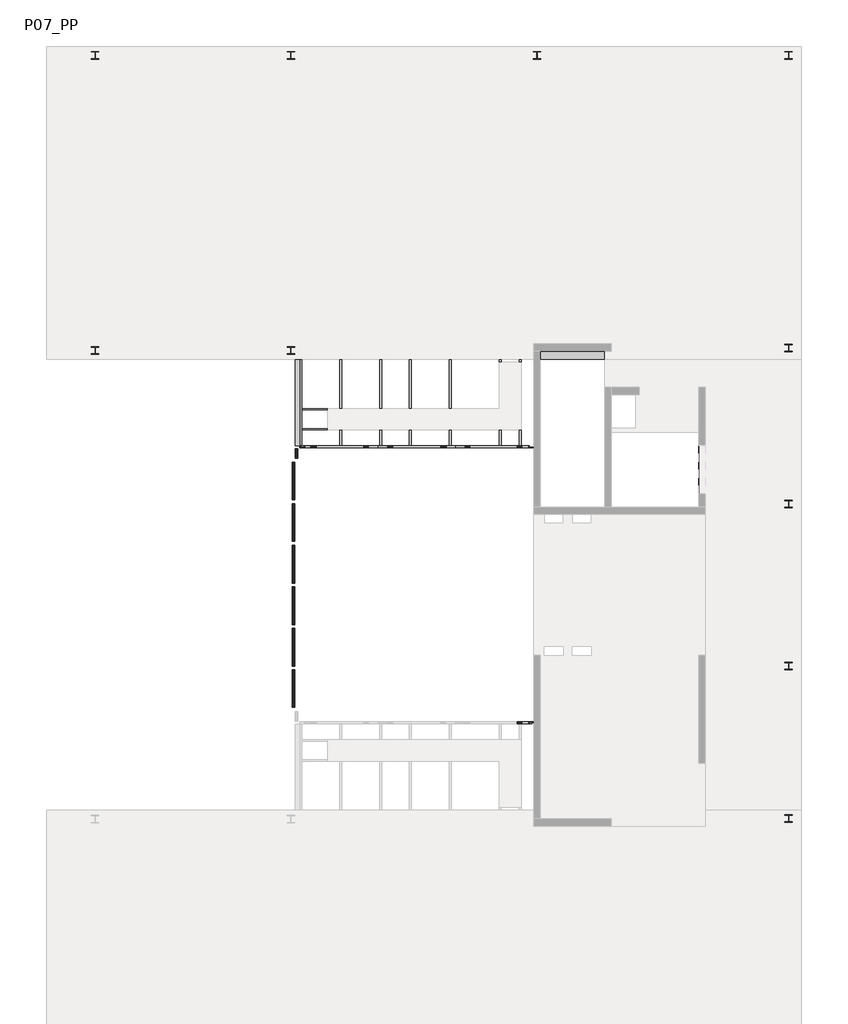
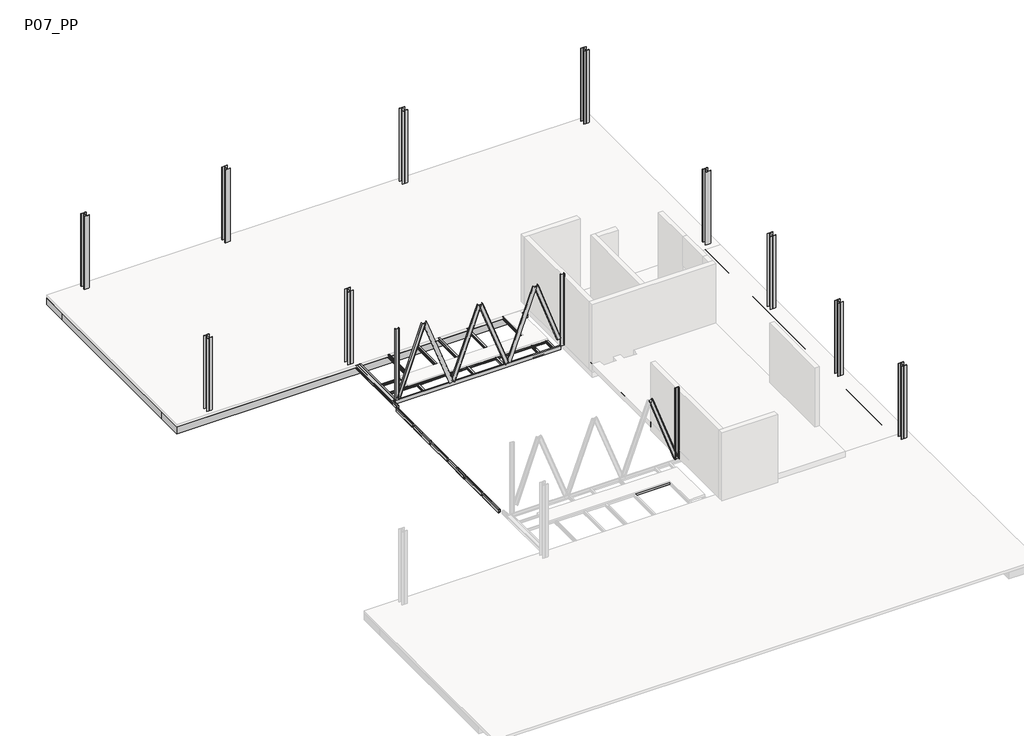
# One storey, part 2 of 2: 62 beams, 13 columns.
"""IFC4 building model written with IfcOpenShell, lengths in millimetres."""

from ifc_helpers import new_model, si_unit, frame, origin, place, context, project, spatial, polyline, outline, extrude, faceted_brep, transform, mapped, element, save
from components import heb_180x180_0f2e0399, m_hss_rectangular_hss_200x100_5f17627f, m_hss_rectangular_hss_200x100_02db10bf, m_hss_rectangular_hss_200x100_1788cd85, m_hss_rectangular_hss_200x100_fa2a969a, m_hss_rectangular_hss_200x100_f713b872, m_hss_rectangular_hss_200x100_5a28828e, ub_universal_beams_ipe_160x82_a4b44378, ub_universal_beams_ipe_160x82_3ea767f5, upn120x55_69f0bca1, upn120x55_efc8f615, upn120x55_8ca40f5d, upn120x55_f8c29ef0, upn120x55_6f2391d9, upn120x55_f3862d68, upn120x55_dbb17e30, upn200x75_24fb99ba, upn200x75_cb59e596, upn200x75_a606ac6d, upn200x75_97ea6d6a, upn200x75_3677b2e3, upn200x75_89d3c056, uc_universal_columns_column_uc300x300x97_0dd95e36, upn_200x75_eb6b664d

model = new_model("IFC4")

# Units and contexts
model_context = context("Model", 3, world=origin())
ifc_project = project(units=[si_unit("LENGTHUNIT", "METRE", prefix="MILLI")], contexts=[model_context])

# Site, building, storey
site = spatial("IfcSite", under=ifc_project)
building = spatial("IfcBuilding", under=site)
storey = spatial("IfcBuildingStorey", under=building, Name="P07_PP", Elevation=33660.0)

# Beams
placement = place(None, origin())
heb_180x180_shape = heb_180x180_0f2e0399(model_context)
element("IfcBeam", 1, ObjectType="M_HP-Bearing Pile : HEB 180x180", at=placement, inside=storey, context=model_context, shape_type="MappedRepresentation", body=[
    mapped(heb_180x180_shape, transform((-23130.357866, 12156.8787841, 33570.0), x_axis=(0.0, 1.0, 0.0), y_axis=(-1.0, 0.0, 0.0), z_axis=(0.0, 0.0, 1.0))),
])
element("IfcBeam", 2, ObjectType="M_Concrete-Rectangular Beam : 1500 x 550mm", at=placement, inside=storey, context=model_context, shape_type="Brep", body=[
    faceted_brep([(-13390.3216429, 13539.4134441, 33660.0), (-10790.2146087, 13539.4134441, 33660.0), (-10790.2146087, 13864.8960677, 33660.0), (-13390.3216429, 13864.8960677, 33660.0), (-2913.6343046, 15039.4134441, 33110.0), (-4553.6343046, 15039.4134441, 33110.0), (-5816.2708415, 15039.4134441, 33110.0), (-6216.2708415, 15039.4134441, 33110.0), (-7482.9375051, 15039.4134441, 33110.0), (-7882.9375051, 15039.4134441, 33110.0), (-9149.6041702, 15039.4134441, 33110.0), (-9549.6041702, 15039.4134441, 33110.0), (-10816.2708336, 15039.4134441, 33110.0), (-11216.2708336, 15039.4134441, 33110.0), (-12482.9374977, 15039.4134441, 33110.0), (-12882.9374977, 15039.4134441, 33110.0), (-14149.604161, 15039.4134441, 33110.0), (-14549.604161, 15039.4134441, 33110.0), (-15816.2708252, 15039.4134441, 33110.0), (-16216.2708252, 15039.4134441, 33110.0), (-17482.9374898, 15039.4134441, 33110.0), (-17882.9374898, 15039.4134441, 33110.0), (-19149.6041539, 15039.4134441, 33110.0), (-19549.6041539, 15039.4134441, 33110.0), (-20816.2708168, 15039.4134441, 33110.0), (-21216.2708168, 15039.4134441, 33110.0), (-22482.9374805, 15039.4134441, 33110.0), (-22882.9374805, 15039.4134441, 33110.0), (-24149.6041453, 15039.4134441, 33110.0), (-24549.6041453, 15039.4134441, 33110.0), (-25816.2708089, 15039.4134441, 33110.0), (-26216.2708089, 15039.4134441, 33110.0), (-27482.9374731, 15039.4134441, 33110.0), (-27882.9374731, 15039.4134441, 33110.0), (-29149.6041367, 15039.4134441, 33110.0), (-29549.6041367, 15039.4134441, 33110.0), (-30816.2708024, 15039.4134441, 33110.0), (-31216.2708024, 15039.4134441, 33110.0), (-32490.2931093, 15039.4134441, 33110.0), (-33190.2931093, 15039.4134441, 33110.0), (-33190.2931093, 15039.4134441, 33510.0), (-32490.2931093, 15039.4134441, 33510.0), (-31216.2708024, 15039.4134441, 33510.0), (-30816.2708024, 15039.4134441, 33510.0), (-29549.6041367, 15039.4134441, 33510.0), (-29149.6041367, 15039.4134441, 33510.0), (-27882.9374731, 15039.4134441, 33510.0), (-27482.9374731, 15039.4134441, 33510.0), (-26216.2708089, 15039.4134441, 33510.0), (-25816.2708089, 15039.4134441, 33510.0), (-24549.6041453, 15039.4134441, 33510.0), (-24149.6041453, 15039.4134441, 33510.0), (-22882.9374805, 15039.4134441, 33510.0), (-22482.9374805, 15039.4134441, 33510.0), (-21216.2708168, 15039.4134441, 33510.0), (-20816.2708168, 15039.4134441, 33510.0), (-19549.6041539, 15039.4134441, 33510.0), (-19149.6041539, 15039.4134441, 33510.0), (-17882.9374898, 15039.4134441, 33510.0), (-17482.9374898, 15039.4134441, 33510.0), (-16216.2708252, 15039.4134441, 33510.0), (-15816.2708252, 15039.4134441, 33510.0), (-14549.604161, 15039.4134441, 33510.0), (-14149.604161, 15039.4134441, 33510.0), (-12882.9374977, 15039.4134441, 33510.0), (-12482.9374977, 15039.4134441, 33510.0), (-11216.2708336, 15039.4134441, 33510.0), (-10816.2708336, 15039.4134441, 33510.0), (-9549.6041702, 15039.4134441, 33510.0), (-9149.6041702, 15039.4134441, 33510.0), (-7882.9375051, 15039.4134441, 33510.0), (-7482.9375051, 15039.4134441, 33510.0), (-6216.2708415, 15039.4134441, 33510.0), (-5816.2708415, 15039.4134441, 33510.0), (-4553.6343046, 15039.4134441, 33510.0), (-2913.6343046, 15039.4134441, 33510.0), (-33190.2931093, 13539.4134441, 33110.0), (-2913.6343046, 13539.4134441, 33110.0), (-13390.3216429, 13539.4134441, 33110.0), (-13390.3216429, 13864.8960687, 33110.0), (-10540.3248355, 13864.8960687, 33110.0), (-10540.3248355, 14164.8960687, 33110.0), (-13640.3216429, 14164.8960687, 33110.0), (-13640.3216429, 13539.4134441, 33110.0), (-3265.7676427, 13739.8953429, 33110.0), (-3265.767646, 14239.8953429, 33110.0), (-3765.767646, 14239.8953395, 33110.0), (-3765.7676427, 13739.8953395, 33110.0), (-23240.3176131, 13739.8951432, 33110.0), (-23240.3176172, 14239.8951432, 33110.0), (-23740.3176172, 14239.8951391, 33110.0), (-23740.3176131, 13739.8951391, 33110.0), (-30890.3590226, 13739.8951366, 33110.0), (-30890.3590227, 14239.8951366, 33110.0), (-31390.3590227, 14239.8951365, 33110.0), (-31390.3590226, 13739.8951365, 33110.0), (-13640.3216429, 13539.4134441, 33359.9777344), (-13390.3216429, 13539.4134441, 33359.9777344), (-2913.6343046, 13539.4134441, 33360.0), (-2913.6343046, 13539.4134441, 33510.0), (-10790.2146087, 13539.4134441, 33510.0), (-13390.3216429, 13539.4134441, 33510.0), (-33190.2931093, 13539.4134441, 33510.0), (-3265.7676427, 13739.8953429, 33360.0), (-3265.767646, 14239.8953429, 33360.0), (-3765.7676427, 13739.8953395, 33360.0), (-3765.767646, 14239.8953395, 33360.0), (-23240.3176131, 13739.8951432, 33360.0), (-23240.3176172, 14239.8951432, 33360.0), (-23740.3176131, 13739.8951391, 33360.0), (-23740.3176172, 14239.8951391, 33360.0), (-30890.3590226, 13739.8951366, 33360.0), (-30890.3590227, 14239.8951366, 33360.0), (-31390.3590226, 13739.8951365, 33360.0), (-31390.3590227, 14239.8951365, 33360.0), (-10540.3248355, 14164.8960687, 33359.9777344), (-13640.3216429, 14164.8960687, 33359.9777344), (-10540.3248355, 13864.8960687, 33359.9777344), (-13390.3216429, 13864.8960687, 33359.9777344), (-13640.3216429, 13864.8960687, 33359.9777344), (-10790.2146087, 13864.8960677, 33510.0), (-13390.3216429, 13864.8960677, 33510.0)], [[[0, 1, 2, 3]], [[4, 5, 6, 7, 8, 9, 10, 11, 12, 13, 14, 15, 16, 17, 18, 19, 20, 21, 22, 23, 24, 25, 26, 27, 28, 29, 30, 31, 32, 33, 34, 35, 36, 37, 38, 39, 40, 41, 42, 43, 44, 45, 46, 47, 48, 49, 50, 51, 52, 53, 54, 55, 56, 57, 58, 59, 60, 61, 62, 63, 64, 65, 66, 67, 68, 69, 70, 71, 72, 73, 74, 75]], [[76, 39, 38, 37, 36, 35, 34, 33, 32, 31, 30, 29, 28, 27, 26, 25, 24, 23, 22, 21, 20, 19, 18, 17, 16, 15, 14, 13, 12, 11, 10, 9, 8, 7, 6, 5, 4, 77, 78, 79, 80, 81, 82, 83], [84, 85, 86, 87], [88, 89, 90, 91], [92, 93, 94, 95]], [[76, 83, 96, 97, 78, 77, 98, 99, 100, 1, 0, 101, 102]], [[39, 76, 102, 40]], [[77, 4, 75, 99, 98]], [[103, 104, 85, 84]], [[105, 103, 84, 87]], [[106, 105, 87, 86]], [[104, 106, 86, 85]], [[104, 103, 105, 106]], [[107, 108, 89, 88]], [[109, 107, 88, 91]], [[110, 109, 91, 90]], [[108, 110, 90, 89]], [[108, 107, 109, 110]], [[111, 112, 93, 92]], [[113, 111, 92, 95]], [[114, 113, 95, 94]], [[112, 114, 94, 93]], [[112, 111, 113, 114]], [[115, 116, 82, 81]], [[117, 80, 79, 118]], [[116, 115, 117, 118, 97, 96, 119]], [[117, 115, 81, 80]], [[82, 116, 119, 96, 83]], [[97, 118, 79, 78]], [[120, 100, 99, 75, 74, 73, 72, 71, 70, 69, 68, 67, 66, 65, 64, 63, 62, 61, 60, 59, 58, 57, 56, 55, 54, 53, 52, 51, 50, 49, 48, 47, 46, 45, 44, 43, 42, 41, 40, 102, 101, 121]], [[120, 121, 3, 2]], [[121, 101, 0, 3]], [[100, 120, 2, 1]]]),
])
element("IfcBeam", 3, ObjectType="M_Concrete-Rectangular Beam : 1500 x 550mm", at=placement, inside=storey, context=model_context, shape_type="Brep", body=[
    faceted_brep([(-4553.6343046, 26089.4144807, 33110.0), (-33190.2931093, 26089.4144807, 33110.0), (-33190.2931093, 26089.4144807, 33510.0), (-4553.6343046, 26089.4144807, 33510.0), (-33190.2931093, 24589.4144807, 33110.0), (-4553.6343046, 24589.4144807, 33110.0), (-5816.2708415, 24589.4144807, 33110.0), (-6216.2708415, 24589.4144807, 33110.0), (-7482.9375051, 24589.4144807, 33110.0), (-7882.9375051, 24589.4144807, 33110.0), (-9149.6041702, 24589.4144807, 33110.0), (-9549.6041702, 24589.4144807, 33110.0), (-10816.2708336, 24589.4144807, 33110.0), (-11216.2708336, 24589.4144807, 33110.0), (-12482.9374977, 24589.4144807, 33110.0), (-12882.9374977, 24589.4144807, 33110.0), (-14149.604161, 24589.4144807, 33110.0), (-14549.604161, 24589.4144807, 33110.0), (-15816.2708252, 24589.4144807, 33110.0), (-16216.2708252, 24589.4144807, 33110.0), (-17482.9374898, 24589.4144807, 33110.0), (-17882.9374898, 24589.4144807, 33110.0), (-19149.6041539, 24589.4144807, 33110.0), (-19549.6041539, 24589.4144807, 33110.0), (-20816.2708168, 24589.4144807, 33110.0), (-21216.2708168, 24589.4144807, 33110.0), (-22482.9374805, 24589.4144807, 33110.0), (-22882.9374805, 24589.4144807, 33110.0), (-24149.6041453, 24589.4144807, 33110.0), (-24549.6041453, 24589.4144807, 33110.0), (-25816.2708089, 24589.4144807, 33110.0), (-26216.2708089, 24589.4144807, 33110.0), (-27482.9374731, 24589.4144807, 33110.0), (-27882.9374731, 24589.4144807, 33110.0), (-29149.6041367, 24589.4144807, 33110.0), (-29549.6041367, 24589.4144807, 33110.0), (-30816.2708024, 24589.4144807, 33110.0), (-31216.2708024, 24589.4144807, 33110.0), (-32490.2931093, 24589.4144807, 33110.0), (-13265.3183805, 25389.9726282, 33110.0), (-13265.3183824, 25889.9726282, 33110.0), (-13765.3183824, 25889.9726263, 33110.0), (-13765.3183805, 25389.9726263, 33110.0), (-23240.3171036, 25389.9726299, 33110.0), (-23240.3171037, 25889.9726299, 33110.0), (-23740.3171037, 25889.9726297, 33110.0), (-23740.3171036, 25389.9726297, 33110.0), (-30890.3592176, 25389.9726315, 33110.0), (-30890.3592137, 25889.9726315, 33110.0), (-31390.3592137, 25889.9726354, 33110.0), (-31390.3592176, 25389.9726354, 33110.0), (-4553.6343046, 24589.4144807, 33510.0), (-5816.2708415, 24589.4144807, 33510.0), (-6216.2708415, 24589.4144807, 33510.0), (-7482.9375051, 24589.4144807, 33510.0), (-7882.9375051, 24589.4144807, 33510.0), (-9149.6041702, 24589.4144807, 33510.0), (-9549.6041702, 24589.4144807, 33510.0), (-10816.2708336, 24589.4144807, 33510.0), (-11216.2708336, 24589.4144807, 33510.0), (-12482.9374977, 24589.4144807, 33510.0), (-12882.9374977, 24589.4144807, 33510.0), (-14149.604161, 24589.4144807, 33510.0), (-14549.604161, 24589.4144807, 33510.0), (-15816.2708252, 24589.4144807, 33510.0), (-16216.2708252, 24589.4144807, 33510.0), (-17482.9374898, 24589.4144807, 33510.0), (-17882.9374898, 24589.4144807, 33510.0), (-19149.6041539, 24589.4144807, 33510.0), (-19549.6041539, 24589.4144807, 33510.0), (-20816.2708168, 24589.4144807, 33510.0), (-21216.2708168, 24589.4144807, 33510.0), (-22482.9374805, 24589.4144807, 33510.0), (-22882.9374805, 24589.4144807, 33510.0), (-24149.6041453, 24589.4144807, 33510.0), (-24549.6041453, 24589.4144807, 33510.0), (-25816.2708089, 24589.4144807, 33510.0), (-26216.2708089, 24589.4144807, 33510.0), (-27482.9374731, 24589.4144807, 33510.0), (-27882.9374731, 24589.4144807, 33510.0), (-29149.6041367, 24589.4144807, 33510.0), (-29549.6041367, 24589.4144807, 33510.0), (-30816.2708024, 24589.4144807, 33510.0), (-31216.2708024, 24589.4144807, 33510.0), (-32490.2931093, 24589.4144807, 33510.0), (-33190.2931093, 24589.4144807, 33510.0), (-13265.3183805, 25389.9726282, 33360.0), (-13265.3183824, 25889.9726282, 33360.0), (-13765.3183805, 25389.9726263, 33360.0), (-13765.3183824, 25889.9726263, 33360.0), (-23240.3171036, 25389.9726299, 33360.0), (-23240.3171037, 25889.9726299, 33360.0), (-23740.3171036, 25389.9726297, 33360.0), (-23740.3171037, 25889.9726297, 33360.0), (-30890.3592176, 25389.9726315, 33360.0), (-30890.3592137, 25889.9726315, 33360.0), (-31390.3592176, 25389.9726354, 33360.0), (-31390.3592137, 25889.9726354, 33360.0)], [[[0, 1, 2, 3]], [[4, 1, 0, 5, 6, 7, 8, 9, 10, 11, 12, 13, 14, 15, 16, 17, 18, 19, 20, 21, 22, 23, 24, 25, 26, 27, 28, 29, 30, 31, 32, 33, 34, 35, 36, 37, 38], [39, 40, 41, 42], [43, 44, 45, 46], [47, 48, 49, 50]], [[4, 38, 37, 36, 35, 34, 33, 32, 31, 30, 29, 28, 27, 26, 25, 24, 23, 22, 21, 20, 19, 18, 17, 16, 15, 14, 13, 12, 11, 10, 9, 8, 7, 6, 5, 51, 52, 53, 54, 55, 56, 57, 58, 59, 60, 61, 62, 63, 64, 65, 66, 67, 68, 69, 70, 71, 72, 73, 74, 75, 76, 77, 78, 79, 80, 81, 82, 83, 84, 85]], [[1, 4, 85, 2]], [[5, 0, 3, 51]], [[86, 87, 40, 39]], [[88, 86, 39, 42]], [[89, 88, 42, 41]], [[87, 89, 41, 40]], [[87, 86, 88, 89]], [[90, 91, 44, 43]], [[92, 90, 43, 46]], [[93, 92, 46, 45]], [[91, 93, 45, 44]], [[91, 90, 92, 93]], [[94, 95, 48, 47]], [[96, 94, 47, 50]], [[97, 96, 50, 49]], [[95, 97, 49, 48]], [[95, 94, 96, 97]], [[3, 2, 85, 84, 83, 82, 81, 80, 79, 78, 77, 76, 75, 74, 73, 72, 71, 70, 69, 68, 67, 66, 65, 64, 63, 62, 61, 60, 59, 58, 57, 56, 55, 54, 53, 52, 51]]]),
])
element("IfcBeam", 4, ObjectType="M_Concrete-Rectangular Beam : 1640 x 550mm", at=placement, inside=storey, context=model_context, shape_type="Brep", body=[
    faceted_brep([(-4553.6343046, 26089.4144807, 33110.0), (-4553.6343046, 24589.4144807, 33110.0), (-4553.6343046, 15039.4134441, 33110.0), (-4553.6343046, 15039.4134441, 33510.0), (-4553.6343046, 24589.4144807, 33510.0), (-4553.6343046, 26089.4144807, 33510.0), (-2913.6343046, 15039.4134441, 33110.0), (-2913.6343046, 26089.4144807, 33110.0), (-3265.7676524, 25389.9726341, 33110.0), (-3265.7676517, 25889.9726341, 33110.0), (-3765.7676517, 25889.9726349, 33110.0), (-3765.7676524, 25389.9726349, 33110.0), (-2913.6343046, 26089.4144807, 33510.0), (-2913.6343046, 15039.4134441, 33510.0), (-3265.7676524, 25389.9726341, 33360.0), (-3265.7676517, 25889.9726341, 33360.0), (-3765.7676524, 25389.9726349, 33360.0), (-3765.7676517, 25889.9726349, 33360.0)], [[[0, 1, 2, 3, 4, 5]], [[6, 2, 1, 0, 7], [8, 9, 10, 11]], [[6, 7, 12, 13]], [[2, 6, 13, 3]], [[7, 0, 5, 12]], [[14, 15, 9, 8]], [[16, 14, 8, 11]], [[17, 16, 11, 10]], [[15, 17, 10, 9]], [[15, 14, 16, 17]], [[5, 4, 3, 13, 12]]]),
])
element("IfcBeam", 5, ObjectType="M_Concrete-Rectangular Beam : 300 x 300mm", at=placement, inside=storey, context=model_context, shape_type="SweptSolid", body=[
    extrude(outline(polyline([(-13340.2931098, 1664.8968204), (-13640.2931098, 1664.8968204), (-13640.2931098, 7464.8960673), (-13340.2931098, 7464.8960673), (-13340.2931098, 1664.8968204)])), frame((0.0, 0.0, 33860.0), z_axis=(0.0, 0.0, 1.0), x_axis=(1.0, 0.0, 0.0)), (0.0, 0.0, 1.0), 300.0),
])
element("IfcBeam", 6, ObjectType="M_Concrete-Rectangular Beam : 300 x 300mm", at=placement, inside=storey, context=model_context, shape_type="Brep", body=[
    faceted_brep([(-6715.3241677, 13539.4134441, 33660.0), (-7015.3241677, 13539.4134441, 33660.0), (-7015.3241677, -4560.5861501, 33660.0), (-6715.3241677, -4560.5861501, 33660.0), (-7015.3241677, 13539.4134441, 33510.0), (-7015.3241677, 13539.4134441, 33360.0), (-7015.3241677, -4560.5861501, 33360.0), (-7015.3241677, -4560.5861501, 33510.0), (-6715.3241677, 13539.4134441, 33360.0), (-6715.3241677, -4560.5861501, 33360.0), (-6715.3241677, -4560.5861501, 33510.0), (-6715.3241677, 13539.4134441, 33510.0)], [[[0, 1, 2, 3]], [[2, 1, 4, 5, 6, 7]], [[5, 8, 9, 6]], [[0, 3, 10, 9, 8, 11]], [[1, 0, 11, 8, 5, 4]], [[3, 2, 7, 6, 9, 10]]]),
])
element("IfcBeam", 7, ObjectType="M_Concrete-Rectangular Beam : 400 x 550mm", at=placement, inside=storey, context=model_context, shape_type="SweptSolid", body=[
    extrude(outline(polyline([(-30816.2708024, 15039.4134441), (-31216.2708024, 15039.4134441), (-31216.2708024, 24589.4144807), (-30816.2708024, 24589.4144807), (-30816.2708024, 15039.4134441)])), frame((0.0, 0.0, 33110.0), z_axis=(0.0, 0.0, 1.0), x_axis=(1.0, 0.0, 0.0)), (0.0, 0.0, 1.0), 400.0),
])
element("IfcBeam", 8, ObjectType="M_Concrete-Rectangular Beam : 400 x 550mm", at=placement, inside=storey, context=model_context, shape_type="SweptSolid", body=[
    extrude(outline(polyline([(-29149.6041367, 15039.4134441), (-29549.6041367, 15039.4134441), (-29549.6041367, 24589.4144807), (-29149.6041367, 24589.4144807), (-29149.6041367, 15039.4134441)])), frame((0.0, 0.0, 33110.0), z_axis=(0.0, 0.0, 1.0), x_axis=(1.0, 0.0, 0.0)), (0.0, 0.0, 1.0), 400.0),
])
element("IfcBeam", 9, ObjectType="M_Concrete-Rectangular Beam : 400 x 550mm", at=placement, inside=storey, context=model_context, shape_type="SweptSolid", body=[
    extrude(outline(polyline([(-27482.9374731, 15039.4134441), (-27882.9374731, 15039.4134441), (-27882.9374731, 24589.4144807), (-27482.9374731, 24589.4144807), (-27482.9374731, 15039.4134441)])), frame((0.0, 0.0, 33110.0), z_axis=(0.0, 0.0, 1.0), x_axis=(1.0, 0.0, 0.0)), (0.0, 0.0, 1.0), 400.0),
])
element("IfcBeam", 10, ObjectType="M_Concrete-Rectangular Beam : 400 x 550mm", at=placement, inside=storey, context=model_context, shape_type="SweptSolid", body=[
    extrude(outline(polyline([(-25816.2708089, 15039.4134441), (-26216.2708089, 15039.4134441), (-26216.2708089, 24589.4144807), (-25816.2708089, 24589.4144807), (-25816.2708089, 15039.4134441)])), frame((0.0, 0.0, 33110.0), z_axis=(0.0, 0.0, 1.0), x_axis=(1.0, 0.0, 0.0)), (0.0, 0.0, 1.0), 400.0),
])
element("IfcBeam", 11, ObjectType="M_Concrete-Rectangular Beam : 400 x 550mm", at=placement, inside=storey, context=model_context, shape_type="SweptSolid", body=[
    extrude(outline(polyline([(-24149.6041453, 15039.4134441), (-24549.6041453, 15039.4134441), (-24549.6041453, 24589.4144807), (-24149.6041453, 24589.4144807), (-24149.6041453, 15039.4134441)])), frame((0.0, 0.0, 33110.0), z_axis=(0.0, 0.0, 1.0), x_axis=(1.0, 0.0, 0.0)), (0.0, 0.0, 1.0), 400.0),
])
element("IfcBeam", 12, ObjectType="M_Concrete-Rectangular Beam : 400 x 550mm", at=placement, inside=storey, context=model_context, shape_type="SweptSolid", body=[
    extrude(outline(polyline([(-22482.9374805, 15039.4134441), (-22882.9374805, 15039.4134441), (-22882.9374805, 24589.4144807), (-22482.9374805, 24589.4144807), (-22482.9374805, 15039.4134441)])), frame((0.0, 0.0, 33110.0), z_axis=(0.0, 0.0, 1.0), x_axis=(1.0, 0.0, 0.0)), (0.0, 0.0, 1.0), 400.0),
])
element("IfcBeam", 13, ObjectType="M_Concrete-Rectangular Beam : 400 x 550mm", at=placement, inside=storey, context=model_context, shape_type="SweptSolid", body=[
    extrude(outline(polyline([(-20816.2708168, 15039.4134441), (-21216.2708168, 15039.4134441), (-21216.2708168, 24589.4144807), (-20816.2708168, 24589.4144807), (-20816.2708168, 15039.4134441)])), frame((0.0, 0.0, 33110.0), z_axis=(0.0, 0.0, 1.0), x_axis=(1.0, 0.0, 0.0)), (0.0, 0.0, 1.0), 400.0),
])
element("IfcBeam", 14, ObjectType="M_Concrete-Rectangular Beam : 400 x 550mm", at=placement, inside=storey, context=model_context, shape_type="SweptSolid", body=[
    extrude(outline(polyline([(-19149.6041539, 15039.4134441), (-19549.6041539, 15039.4134441), (-19549.6041539, 24589.4144807), (-19149.6041539, 24589.4144807), (-19149.6041539, 15039.4134441)])), frame((0.0, 0.0, 33110.0), z_axis=(0.0, 0.0, 1.0), x_axis=(1.0, 0.0, 0.0)), (0.0, 0.0, 1.0), 400.0),
])
element("IfcBeam", 15, ObjectType="M_Concrete-Rectangular Beam : 400 x 550mm", at=placement, inside=storey, context=model_context, shape_type="SweptSolid", body=[
    extrude(outline(polyline([(-17482.9374898, 15039.4134441), (-17882.9374898, 15039.4134441), (-17882.9374898, 24589.4144807), (-17482.9374898, 24589.4144807), (-17482.9374898, 15039.4134441)])), frame((0.0, 0.0, 33110.0), z_axis=(0.0, 0.0, 1.0), x_axis=(1.0, 0.0, 0.0)), (0.0, 0.0, 1.0), 400.0),
])
element("IfcBeam", 16, ObjectType="M_Concrete-Rectangular Beam : 400 x 550mm", at=placement, inside=storey, context=model_context, shape_type="SweptSolid", body=[
    extrude(outline(polyline([(-15816.2708252, 15039.4134441), (-16216.2708252, 15039.4134441), (-16216.2708252, 24589.4144807), (-15816.2708252, 24589.4144807), (-15816.2708252, 15039.4134441)])), frame((0.0, 0.0, 33110.0), z_axis=(0.0, 0.0, 1.0), x_axis=(1.0, 0.0, 0.0)), (0.0, 0.0, 1.0), 400.0),
])
element("IfcBeam", 17, ObjectType="M_Concrete-Rectangular Beam : 400 x 550mm", at=placement, inside=storey, context=model_context, shape_type="SweptSolid", body=[
    extrude(outline(polyline([(-14149.604161, 15039.4134441), (-14549.604161, 15039.4134441), (-14549.604161, 24589.4144807), (-14149.604161, 24589.4144807), (-14149.604161, 15039.4134441)])), frame((0.0, 0.0, 33110.0), z_axis=(0.0, 0.0, 1.0), x_axis=(1.0, 0.0, 0.0)), (0.0, 0.0, 1.0), 400.0),
])
element("IfcBeam", 18, ObjectType="M_Concrete-Rectangular Beam : 400 x 550mm", at=placement, inside=storey, context=model_context, shape_type="SweptSolid", body=[
    extrude(outline(polyline([(-12482.9374977, 15039.4134441), (-12882.9374977, 15039.4134441), (-12882.9374977, 24589.4144807), (-12482.9374977, 24589.4144807), (-12482.9374977, 15039.4134441)])), frame((0.0, 0.0, 33110.0), z_axis=(0.0, 0.0, 1.0), x_axis=(1.0, 0.0, 0.0)), (0.0, 0.0, 1.0), 400.0),
])
element("IfcBeam", 19, ObjectType="M_Concrete-Rectangular Beam : 400 x 550mm", at=placement, inside=storey, context=model_context, shape_type="SweptSolid", body=[
    extrude(outline(polyline([(-10816.2708336, 15039.4134441), (-11216.2708336, 15039.4134441), (-11216.2708336, 24589.4144807), (-10816.2708336, 24589.4144807), (-10816.2708336, 15039.4134441)])), frame((0.0, 0.0, 33110.0), z_axis=(0.0, 0.0, 1.0), x_axis=(1.0, 0.0, 0.0)), (0.0, 0.0, 1.0), 400.0),
])
element("IfcBeam", 20, ObjectType="M_Concrete-Rectangular Beam : 400 x 550mm", at=placement, inside=storey, context=model_context, shape_type="SweptSolid", body=[
    extrude(outline(polyline([(-9149.6041702, 15039.4134441), (-9549.6041702, 15039.4134441), (-9549.6041702, 24589.4144807), (-9149.6041702, 24589.4144807), (-9149.6041702, 15039.4134441)])), frame((0.0, 0.0, 33110.0), z_axis=(0.0, 0.0, 1.0), x_axis=(1.0, 0.0, 0.0)), (0.0, 0.0, 1.0), 400.0),
])
element("IfcBeam", 21, ObjectType="M_Concrete-Rectangular Beam : 400 x 550mm", at=placement, inside=storey, context=model_context, shape_type="SweptSolid", body=[
    extrude(outline(polyline([(-7482.9375051, 15039.4134441), (-7882.9375051, 15039.4134441), (-7882.9375051, 24589.4144807), (-7482.9375051, 24589.4144807), (-7482.9375051, 15039.4134441)])), frame((0.0, 0.0, 33110.0), z_axis=(0.0, 0.0, 1.0), x_axis=(1.0, 0.0, 0.0)), (0.0, 0.0, 1.0), 400.0),
])
element("IfcBeam", 22, ObjectType="M_Concrete-Rectangular Beam : 400 x 550mm", at=placement, inside=storey, context=model_context, shape_type="SweptSolid", body=[
    extrude(outline(polyline([(-5816.2708415, 15039.4134441), (-6216.2708415, 15039.4134441), (-6216.2708415, 24589.4144807), (-5816.2708415, 24589.4144807), (-5816.2708415, 15039.4134441)])), frame((0.0, 0.0, 33110.0), z_axis=(0.0, 0.0, 1.0), x_axis=(1.0, 0.0, 0.0)), (0.0, 0.0, 1.0), 400.0),
])
element("IfcBeam", 23, ObjectType="M_Concrete-Rectangular Beam : 700 x 550mm", at=placement, inside=storey, context=model_context, shape_type="SweptSolid", body=[
    extrude(outline(polyline([(-32490.2931093, 15039.4134441), (-33190.2931093, 15039.4134441), (-33190.2931093, 24589.4144807), (-32490.2931093, 24589.4144807), (-32490.2931093, 15039.4134441)])), frame((0.0, 0.0, 33110.0), z_axis=(0.0, 0.0, 1.0), x_axis=(1.0, 0.0, 0.0)), (0.0, 0.0, 1.0), 400.0),
])
element("IfcBeam", 24, ObjectType="M_Concrete-Rectangular Beam : 850 x 300mm", at=placement, inside=storey, context=model_context, shape_type="Brep", body=[
    faceted_brep([(-2913.6343046, 13539.4134441, 33660.0), (-3763.6343046, 13539.4134441, 33660.0), (-3763.6343046, -4560.5861501, 33660.0), (-2913.6343046, -4560.5861501, 33660.0), (-3763.6343046, 13539.4134441, 33510.0), (-3763.6343046, 13539.4134441, 33360.0), (-3763.6343046, -4560.5861501, 33360.0), (-3763.6343046, -4560.5861501, 33510.0), (-2913.6343046, 13539.4134441, 33360.0), (-2913.6343046, -4560.5861501, 33360.0), (-2913.6343046, -4560.5861501, 33510.0), (-2913.6343046, 13539.4134441, 33510.0)], [[[0, 1, 2, 3]], [[2, 1, 4, 5, 6, 7]], [[5, 8, 9, 6]], [[0, 3, 10, 9, 8, 11]], [[1, 0, 11, 8, 5, 4]], [[3, 2, 7, 6, 9, 10]]]),
])
m_hss_rectangular_hss_200x100_shape = m_hss_rectangular_hss_200x100_5f17627f(model_context)
element("IfcBeam", 25, ObjectType="M_HSS Rectangular : HSS 200x100", at=placement, inside=storey, context=model_context, shape_type="MappedRepresentation", body=[
    mapped(m_hss_rectangular_hss_200x100_shape, transform((-23290.3172019, 8679.8399046, 33560.0), x_axis=(-3.182446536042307e-08, -0.9999999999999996, 0.0), y_axis=(0.9999999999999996, -3.182446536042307e-08, 0.0), z_axis=(0.0, 0.0, 1.0))),
])
m_hss_rectangular_hss_200x100_2_shape = m_hss_rectangular_hss_200x100_02db10bf(model_context)
element("IfcBeam", 26, ObjectType="M_HSS Rectangular : HSS 200x100", at=placement, inside=storey, context=model_context, shape_type="MappedRepresentation", body=[
    mapped(m_hss_rectangular_hss_200x100_2_shape, transform((-23290.3172557, 6989.4139649, 33560.0), x_axis=(-3.182446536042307e-08, -0.9999999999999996, 0.0), y_axis=(0.9999999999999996, -3.182446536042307e-08, 0.0), z_axis=(0.0, 0.0, 1.0))),
])
element("IfcBeam", 27, ObjectType="M_HSS Rectangular : HSS 200x100", at=placement, inside=storey, context=model_context, shape_type="MappedRepresentation", body=[
    mapped(m_hss_rectangular_hss_200x100_2_shape, transform((-23290.3174148, 1989.4143425, 33560.0), x_axis=(-3.182446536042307e-08, -0.9999999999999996, 0.0), y_axis=(0.9999999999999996, -3.182446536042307e-08, 0.0), z_axis=(0.0, 0.0, 1.0))),
])
m_hss_rectangular_hss_200x100_3_shape = m_hss_rectangular_hss_200x100_1788cd85(model_context)
element("IfcBeam", 28, ObjectType="M_HSS Rectangular : HSS 200x100", at=placement, inside=storey, context=model_context, shape_type="MappedRepresentation", body=[
    mapped(m_hss_rectangular_hss_200x100_3_shape, transform((-23290.3173087, 5322.9883919, 33560.0), x_axis=(-3.182446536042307e-08, -0.9999999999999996, 0.0), y_axis=(0.9999999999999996, -3.182446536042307e-08, 0.0), z_axis=(0.0, 0.0, 1.0))),
])
m_hss_rectangular_hss_200x100_4_shape = m_hss_rectangular_hss_200x100_fa2a969a(model_context)
element("IfcBeam", 29, ObjectType="M_HSS Rectangular : HSS 200x100", at=placement, inside=storey, context=model_context, shape_type="MappedRepresentation", body=[
    mapped(m_hss_rectangular_hss_200x100_4_shape, transform((-23290.3173618, 3656.3218509, 33560.0), x_axis=(-3.182446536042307e-08, -0.9999999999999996, 0.0), y_axis=(0.9999999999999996, -3.182446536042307e-08, 0.0), z_axis=(0.0, 0.0, 1.0))),
])
m_hss_rectangular_hss_200x100_5_shape = m_hss_rectangular_hss_200x100_f713b872(model_context)
element("IfcBeam", 30, ObjectType="M_HSS Rectangular : HSS 200x100", at=placement, inside=storey, context=model_context, shape_type="MappedRepresentation", body=[
    mapped(m_hss_rectangular_hss_200x100_5_shape, transform((-23290.3174678, 322.7478039, 33560.0), x_axis=(-3.182446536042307e-08, -0.9999999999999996, 0.0), y_axis=(0.9999999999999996, -3.182446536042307e-08, 0.0), z_axis=(0.0, 0.0, 1.0))),
])
m_hss_rectangular_hss_200x100_6_shape = m_hss_rectangular_hss_200x100_5a28828e(model_context)
element("IfcBeam", 31, ObjectType="M_HSS Rectangular : HSS 200x100", at=placement, inside=storey, context=model_context, shape_type="MappedRepresentation", body=[
    mapped(m_hss_rectangular_hss_200x100_6_shape, transform((-23160.3171618, 9792.3965304, 33560.0), x_axis=(0.0, 1.0, 0.0), y_axis=(-1.0, 0.0, 0.0), z_axis=(0.0, 0.0, 1.0))),
])
ub_universal_beams_ipe_160x82_shape = ub_universal_beams_ipe_160x82_a4b44378(model_context)
element("IfcBeam", 32, ObjectType="UB-Universal Beams : IPE 160x82", at=placement, inside=storey, context=model_context, shape_type="MappedRepresentation", body=[
    mapped(ub_universal_beams_ipe_160x82_shape, transform((-14190.4459331, 12171.9464504, 33580.0), x_axis=(0.0, -1.0, 0.0), y_axis=(1.0, 0.0, 0.0), z_axis=(0.0, 0.0, 1.0))),
])
element("IfcBeam", 33, ObjectType="UB-Universal Beams : IPE 160x82", at=placement, inside=storey, context=model_context, shape_type="MappedRepresentation", body=[
    mapped(ub_universal_beams_ipe_160x82_shape, transform((-14990.4459326, 12171.9464378, 33580.0), x_axis=(0.0, -1.0, 0.0), y_axis=(1.0, 0.0, 0.0), z_axis=(0.0, 0.0, 1.0))),
])
element("IfcBeam", 34, ObjectType="UB-Universal Beams : IPE 160x82", at=placement, inside=storey, context=model_context, shape_type="MappedRepresentation", body=[
    mapped(ub_universal_beams_ipe_160x82_shape, transform((-16990.4459316, 12171.9464061, 33580.0), x_axis=(0.0, -1.0, 0.0), y_axis=(1.0, 0.0, 0.0), z_axis=(0.0, 0.0, 1.0))),
])
element("IfcBeam", 35, ObjectType="UB-Universal Beams : IPE 160x82", at=placement, inside=storey, context=model_context, shape_type="MappedRepresentation", body=[
    mapped(ub_universal_beams_ipe_160x82_shape, transform((-18590.4459308, 12171.9463807, 33580.0), x_axis=(0.0, -1.0, 0.0), y_axis=(1.0, 0.0, 0.0), z_axis=(0.0, 0.0, 1.0))),
])
element("IfcBeam", 36, ObjectType="UB-Universal Beams : IPE 160x82", at=placement, inside=storey, context=model_context, shape_type="MappedRepresentation", body=[
    mapped(ub_universal_beams_ipe_160x82_shape, transform((-19790.4459314, 12171.9463617, 33580.0), x_axis=(0.0, -1.0, 0.0), y_axis=(1.0, 0.0, 0.0), z_axis=(0.0, 0.0, 1.0))),
])
element("IfcBeam", 37, ObjectType="UB-Universal Beams : IPE 160x82", at=placement, inside=storey, context=model_context, shape_type="MappedRepresentation", body=[
    mapped(ub_universal_beams_ipe_160x82_shape, transform((-21390.4459306, 12171.9463363, 33580.0), x_axis=(0.0, -1.0, 0.0), y_axis=(1.0, 0.0, 0.0), z_axis=(0.0, 0.0, 1.0))),
])
ub_universal_beams_ipe_160x82_2_shape = ub_universal_beams_ipe_160x82_3ea767f5(model_context)
element("IfcBeam", 38, ObjectType="UB-Universal Beams : IPE 160x82", at=placement, inside=storey, context=model_context, shape_type="MappedRepresentation", body=[
    mapped(ub_universal_beams_ipe_160x82_2_shape, transform((-22991.1860553, 12171.9463109, 33580.0), x_axis=(0.0, -1.0, 0.0), y_axis=(1.0, 0.0, 0.0), z_axis=(0.0, 0.0, 1.0))),
])
upn120x55_shape = upn120x55_69f0bca1(model_context)
element("IfcBeam", 39, ObjectType="M_MC Shapes : UPN120x55", at=placement, inside=storey, context=model_context, shape_type="MappedRepresentation", body=[
    mapped(upn120x55_shape, transform((-14590.4459328, -1772.1875003, 33600.0), x_axis=(0.9999999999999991, -4.319868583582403e-08, 0.0), y_axis=(4.319868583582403e-08, 0.9999999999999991, 0.0), z_axis=(0.0, 0.0, 1.0))),
])
element("IfcBeam", 40, ObjectType="M_MC Shapes : UPN120x55", at=placement, inside=storey, context=model_context, shape_type="MappedRepresentation", body=[
    mapped(upn120x55_shape, transform((-14590.4459328, -2572.1874803, 33600.0), x_axis=(0.9999999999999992, -4.0441322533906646e-08, 0.0), y_axis=(4.0441322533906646e-08, 0.9999999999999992, 0.0), z_axis=(0.0, 0.0, 1.0))),
])
upn120x55_2_shape = upn120x55_efc8f615(model_context)
element("IfcBeam", 41, ObjectType="M_MC Shapes : UPN120x55", at=placement, inside=storey, context=model_context, shape_type="MappedRepresentation", body=[
    mapped(upn120x55_2_shape, transform((-15990.4459321, -2572.1874237, 33600.0), x_axis=(0.9999999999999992, -4.0441322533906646e-08, 0.0), y_axis=(4.0441322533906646e-08, 0.9999999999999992, 0.0), z_axis=(0.0, 0.0, 1.0))),
])
element("IfcBeam", 42, ObjectType="M_MC Shapes : UPN120x55", at=placement, inside=storey, context=model_context, shape_type="MappedRepresentation", body=[
    mapped(upn120x55_2_shape, transform((-15990.4459321, -1772.1874398, 33600.0), x_axis=(0.9999999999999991, -4.319868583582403e-08, 0.0), y_axis=(4.319868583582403e-08, 0.9999999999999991, 0.0), z_axis=(0.0, 0.0, 1.0))),
])
upn120x55_3_shape = upn120x55_8ca40f5d(model_context)
element("IfcBeam", 43, ObjectType="M_MC Shapes : UPN120x55", at=placement, inside=storey, context=model_context, shape_type="MappedRepresentation", body=[
    mapped(upn120x55_3_shape, transform((-22165.4459321, 11551.9793105, 33600.0), x_axis=(0.9999999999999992, 4.0441290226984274e-08, 0.0), y_axis=(-4.0441290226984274e-08, 0.9999999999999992, 0.0), z_axis=(0.0, 0.0, 1.0))),
])
element("IfcBeam", 44, ObjectType="M_MC Shapes : UPN120x55", at=placement, inside=storey, context=model_context, shape_type="MappedRepresentation", body=[
    mapped(upn120x55_3_shape, transform((-22165.4459321, 10751.9793096, 33600.0), x_axis=(0.9999999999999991, 4.319865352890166e-08, 0.0), y_axis=(-4.319865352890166e-08, 0.9999999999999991, 0.0), z_axis=(0.0, 0.0, 1.0))),
])
upn120x55_4_shape = upn120x55_f8c29ef0(model_context)
element("IfcBeam", 45, ObjectType="M_MC Shapes : UPN120x55", at=placement, inside=storey, context=model_context, shape_type="MappedRepresentation", body=[
    mapped(upn120x55_4_shape, transform((-20590.445931, 10751.9793776, 33600.0), x_axis=(0.9999999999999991, 4.319865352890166e-08, 0.0), y_axis=(-4.319865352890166e-08, 0.9999999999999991, 0.0), z_axis=(0.0, 0.0, 1.0))),
])
element("IfcBeam", 46, ObjectType="M_MC Shapes : UPN120x55", at=placement, inside=storey, context=model_context, shape_type="MappedRepresentation", body=[
    mapped(upn120x55_4_shape, transform((-17790.4459312, 10751.9794985, 33600.0), x_axis=(0.9999999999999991, 4.319865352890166e-08, 0.0), y_axis=(-4.319865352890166e-08, 0.9999999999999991, 0.0), z_axis=(0.0, 0.0, 1.0))),
])
element("IfcBeam", 47, ObjectType="M_MC Shapes : UPN120x55", at=placement, inside=storey, context=model_context, shape_type="MappedRepresentation", body=[
    mapped(upn120x55_4_shape, transform((-20590.445931, 11551.9793742, 33600.0), x_axis=(0.9999999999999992, 4.0441290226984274e-08, 0.0), y_axis=(-4.0441290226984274e-08, 0.9999999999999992, 0.0), z_axis=(0.0, 0.0, 1.0))),
])
element("IfcBeam", 48, ObjectType="M_MC Shapes : UPN120x55", at=placement, inside=storey, context=model_context, shape_type="MappedRepresentation", body=[
    mapped(upn120x55_4_shape, transform((-17790.4459312, 11551.9794874, 33600.0), x_axis=(0.9999999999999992, 4.0441290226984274e-08, 0.0), y_axis=(-4.0441290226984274e-08, 0.9999999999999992, 0.0), z_axis=(0.0, 0.0, 1.0))),
])
upn120x55_5_shape = upn120x55_6f2391d9(model_context)
element("IfcBeam", 49, ObjectType="M_MC Shapes : UPN120x55", at=placement, inside=storey, context=model_context, shape_type="MappedRepresentation", body=[
    mapped(upn120x55_5_shape, transform((-19190.4459311, 10751.9794381, 33600.0), x_axis=(0.9999999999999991, 4.319865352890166e-08, 0.0), y_axis=(-4.319865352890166e-08, 0.9999999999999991, 0.0), z_axis=(0.0, 0.0, 1.0))),
])
element("IfcBeam", 50, ObjectType="M_MC Shapes : UPN120x55", at=placement, inside=storey, context=model_context, shape_type="MappedRepresentation", body=[
    mapped(upn120x55_5_shape, transform((-19190.4459311, 11551.9794308, 33600.0), x_axis=(0.9999999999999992, 4.0441290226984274e-08, 0.0), y_axis=(-4.0441290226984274e-08, 0.9999999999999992, 0.0), z_axis=(0.0, 0.0, 1.0))),
])
upn120x55_6_shape = upn120x55_f3862d68(model_context)
element("IfcBeam", 51, ObjectType="M_MC Shapes : UPN120x55", at=placement, inside=storey, context=model_context, shape_type="MappedRepresentation", body=[
    mapped(upn120x55_6_shape, transform((-15990.4459321, 10751.9795763, 33600.0), x_axis=(0.9999999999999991, 4.319865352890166e-08, 0.0), y_axis=(-4.319865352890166e-08, 0.9999999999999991, 0.0), z_axis=(0.0, 0.0, 1.0))),
])
element("IfcBeam", 52, ObjectType="M_MC Shapes : UPN120x55", at=placement, inside=storey, context=model_context, shape_type="MappedRepresentation", body=[
    mapped(upn120x55_6_shape, transform((-15990.4459321, 11551.9795602, 33600.0), x_axis=(0.9999999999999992, 4.0441290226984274e-08, 0.0), y_axis=(-4.0441290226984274e-08, 0.9999999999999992, 0.0), z_axis=(0.0, 0.0, 1.0))),
])
upn120x55_7_shape = upn120x55_dbb17e30(model_context)
element("IfcBeam", 53, ObjectType="M_MC Shapes : UPN120x55", at=placement, inside=storey, context=model_context, shape_type="MappedRepresentation", body=[
    mapped(upn120x55_7_shape, transform((-14590.4459328, 11551.9796168, 33600.0), x_axis=(0.9999999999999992, 4.0441290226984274e-08, 0.0), y_axis=(-4.0441290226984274e-08, 0.9999999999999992, 0.0), z_axis=(0.0, 0.0, 1.0))),
])
element("IfcBeam", 54, ObjectType="M_MC Shapes : UPN120x55", at=placement, inside=storey, context=model_context, shape_type="MappedRepresentation", body=[
    mapped(upn120x55_7_shape, transform((-14590.4459328, 10751.9796368, 33600.0), x_axis=(0.9999999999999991, 4.319865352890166e-08, 0.0), y_axis=(-4.319865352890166e-08, 0.9999999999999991, 0.0), z_axis=(0.0, 0.0, 1.0))),
])
upn200x75_shape = upn200x75_24fb99ba(model_context)
element("IfcBeam", 55, ObjectType="M_MC Shapes : UPN200x75", at=placement, inside=storey, context=model_context, shape_type="MappedRepresentation", body=[
    mapped(upn200x75_shape, transform((-20664.748223, 10001.2791663, 35660.0), x_axis=(0.34599906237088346, 1.1215350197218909e-08, -0.9382348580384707), y_axis=(-3.2414394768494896e-08, 0.9999999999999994, 0.0), z_axis=(0.9382348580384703, 3.041231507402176e-08, 0.3459990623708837))),
])
element("IfcBeam", 56, ObjectType="M_MC Shapes : UPN200x75", at=placement, inside=storey, context=model_context, shape_type="MappedRepresentation", body=[
    mapped(upn200x75_shape, transform((-17563.8888851, 10001.2791663, 35660.0), x_axis=(0.3459990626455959, 1.1290381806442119e-08, -0.9382348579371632), y_axis=(-3.263124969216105e-08, 0.9999999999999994, 0.0), z_axis=(0.9382348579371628, 3.061577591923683e-08, 0.3459990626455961))),
])
upn200x75_2_shape = upn200x75_cb59e596(model_context)
element("IfcBeam", 57, ObjectType="M_MC Shapes : UPN200x75", at=placement, inside=storey, context=model_context, shape_type="MappedRepresentation", body=[
    mapped(upn200x75_2_shape, transform((-14490.8907413, -1021.4872898, 35660.0), x_axis=(0.3365627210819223, -1.179124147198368e-08, -0.941661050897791), y_axis=(3.503430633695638e-08, 0.9999999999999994, 0.0), z_axis=(0.9416610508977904, -3.299044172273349e-08, 0.33656272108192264))),
])
element("IfcBeam", 58, ObjectType="M_MC Shapes : UPN200x75", at=placement, inside=storey, context=model_context, shape_type="MappedRepresentation", body=[
    mapped(upn200x75_2_shape, transform((-22189.7484231, 10001.2791668, 35660.0), x_axis=(-0.3365627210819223, 1.1791242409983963e-08, -0.941661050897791), y_axis=(-3.503430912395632e-08, -0.9999999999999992, 0.0), z_axis=(-0.9416610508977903, 3.299044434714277e-08, 0.3365627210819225))),
])
upn200x75_3_shape = upn200x75_a606ac6d(model_context)
element("IfcBeam", 59, ObjectType="M_MC Shapes : UPN200x75", at=placement, inside=storey, context=model_context, shape_type="MappedRepresentation", body=[
    mapped(upn200x75_3_shape, transform((-19114.3187538, 10001.2791662, 35660.0), x_axis=(-0.34661549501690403, 1.1193819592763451e-08, -0.9380073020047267), y_axis=(-3.22946312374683e-08, -0.9999999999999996, 0.0), z_axis=(-0.9380073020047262, 3.02925999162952e-08, 0.3466154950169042))),
])
upn200x75_4_shape = upn200x75_97ea6d6a(model_context)
element("IfcBeam", 60, ObjectType="M_MC Shapes : UPN200x75", at=placement, inside=storey, context=model_context, shape_type="MappedRepresentation", body=[
    mapped(upn200x75_4_shape, transform((-16015.0273413, 10001.2791664, 35660.0), x_axis=(-0.3459990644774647, 1.1301769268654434e-08, -0.9382348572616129), y_axis=(-3.2664161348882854e-08, -0.9999999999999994, 0.0), z_axis=(-0.9382348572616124, 3.064665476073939e-08, 0.34599906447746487))),
])
upn200x75_5_shape = upn200x75_3677b2e3(model_context)
element("IfcBeam", 61, ObjectType="M_MC Shapes : UPN200x75", at=placement, inside=storey, context=model_context, shape_type="MappedRepresentation", body=[
    mapped(upn200x75_5_shape, transform((-14490.0271504, 10001.2791667, 35660.0), x_axis=(0.336562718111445, 1.1791241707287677e-08, -0.9416610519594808), y_axis=(-3.503430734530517e-08, 0.9999999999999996, 0.0), z_axis=(0.9416610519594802, 3.299044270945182e-08, 0.33656271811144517))),
])
upn200x75_6_shape = upn200x75_89d3c056(model_context)
element("IfcBeam", 62, ObjectType="M_MC Shapes : UPN200x75", at=placement, inside=storey, context=model_context, shape_type="MappedRepresentation", body=[
    mapped(upn200x75_6_shape, transform((-18340.7406773, 10001.2793255, 33560.0), x_axis=(0.9999999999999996, 3.175670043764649e-08, 0.0), y_axis=(-3.175670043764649e-08, 0.9999999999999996, 0.0), z_axis=(0.0, 0.0, 1.0))),
])

# Columns
uc_universal_columns_column_uc300x300x97_shape = uc_universal_columns_column_uc300x300x97_0dd95e36(model_context)
element("IfcColumn", 63, ObjectType="UC-Universal Columns-Column : UC300x300x97", at=placement, inside=storey, context=model_context, shape_type="MappedRepresentation", body=[
    mapped(uc_universal_columns_column_uc300x300x97_shape, transform((-3416.6335356, 25739.3445722, 0.0), x_axis=(1.0, 0.0, 0.0), y_axis=(0.0, 1.0, 0.0), z_axis=(0.0, 0.0, 1.0))),
])
element("IfcColumn", 64, ObjectType="UC-Universal Columns-Column : UC300x300x97", at=placement, inside=storey, context=model_context, shape_type="MappedRepresentation", body=[
    mapped(uc_universal_columns_column_uc300x300x97_shape, transform((-13515.3184399, 25739.3445706, 0.0), x_axis=(1.0, 0.0, 0.0), y_axis=(0.0, 1.0, 0.0), z_axis=(0.0, 0.0, 1.0))),
])
element("IfcColumn", 65, ObjectType="UC-Universal Columns-Column : UC300x300x97", at=placement, inside=storey, context=model_context, shape_type="MappedRepresentation", body=[
    mapped(uc_universal_columns_column_uc300x300x97_shape, transform((-23391.1831827, 25739.344569, 0.0), x_axis=(1.0, 0.0, 0.0), y_axis=(0.0, 1.0, 0.0), z_axis=(0.0, 0.0, 1.0))),
])
element("IfcColumn", 66, ObjectType="UC-Universal Columns-Column : UC300x300x97", at=placement, inside=storey, context=model_context, shape_type="MappedRepresentation", body=[
    mapped(uc_universal_columns_column_uc300x300x97_shape, transform((-31240.3592288, 25739.3445677, 0.0), x_axis=(1.0, 1.5971147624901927e-10, 0.0), y_axis=(-1.5971147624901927e-10, 1.0, 0.0), z_axis=(0.0, 0.0, 1.0))),
])
element("IfcColumn", 67, ObjectType="UC-Universal Columns-Column : UC300x300x97", at=placement, inside=storey, context=model_context, shape_type="MappedRepresentation", body=[
    mapped(uc_universal_columns_column_uc300x300x97_shape, transform((-23391.1839278, 13889.4137334, 0.0), x_axis=(0.999999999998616, 1.6637390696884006e-06, 0.0), y_axis=(-1.6637390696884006e-06, 0.999999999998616, 0.0), z_axis=(0.0, 0.0, 1.0))),
])
element("IfcColumn", 68, ObjectType="UC-Universal Columns-Column : UC300x300x97", at=placement, inside=storey, context=model_context, shape_type="MappedRepresentation", body=[
    mapped(uc_universal_columns_column_uc300x300x97_shape, transform((-3416.6335373, 13990.2610836, 0.0), x_axis=(1.0, 2.9802331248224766e-10, 0.0), y_axis=(-2.9802331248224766e-10, 1.0, 0.0), z_axis=(0.0, 0.0, 1.0))),
])
element("IfcColumn", 69, ObjectType="UC-Universal Columns-Column : UC300x300x97", at=placement, inside=storey, context=model_context, shape_type="MappedRepresentation", body=[
    mapped(uc_universal_columns_column_uc300x300x97_shape, transform((-3416.6347731, 1240.0761643, 0.0), x_axis=(1.0, 2.9800213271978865e-10, 0.0), y_axis=(-2.9800213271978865e-10, 1.0, 0.0), z_axis=(0.0, 0.0, 1.0))),
])
element("IfcColumn", 70, ObjectType="UC-Universal Columns-Column : UC300x300x97", at=placement, inside=storey, context=model_context, shape_type="MappedRepresentation", body=[
    mapped(uc_universal_columns_column_uc300x300x97_shape, transform((-3416.6347466, -4885.1040642, 0.0), x_axis=(1.0, 2.980009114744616e-10, 0.0), y_axis=(-2.980009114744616e-10, 1.0, 0.0), z_axis=(0.0, 0.0, 1.0))),
])
element("IfcColumn", 71, ObjectType="UC-Universal Columns-Column : UC300x300x97", at=placement, inside=storey, context=model_context, shape_type="MappedRepresentation", body=[
    mapped(uc_universal_columns_column_uc300x300x97_shape, transform((-31241.2250878, 13889.4134752, 0.0), x_axis=(1.0, -2.039454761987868e-09, 0.0), y_axis=(2.039454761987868e-09, 1.0, 0.0), z_axis=(0.0, 0.0, 1.0))),
])
element("IfcColumn", 72, ObjectType="UC-Universal Columns-Column : UC300x300x97", at=placement, inside=storey, context=model_context, shape_type="MappedRepresentation", body=[
    mapped(uc_universal_columns_column_uc300x300x97_shape, transform((-3416.6341459, 7740.1526533, 0.0), x_axis=(1.0, 2.980274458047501e-10, 0.0), y_axis=(-2.980274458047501e-10, 1.0, 0.0), z_axis=(0.0, 0.0, 1.0))),
])
upn_200x75_shape = upn_200x75_eb6b664d(model_context)
element("IfcColumn", 73, ObjectType="M_MC Shapes-Column : UPN 200x75", at=placement, inside=storey, context=model_context, shape_type="MappedRepresentation", body=[
    mapped(upn_200x75_shape, transform((-13740.3216426, -1036.9870429, 0.0), x_axis=(-3.122957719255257e-08, -0.9999999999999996, 0.0), y_axis=(0.9999999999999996, -3.122957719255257e-08, 0.0), z_axis=(0.0, 0.0, 1.0))),
])
element("IfcColumn", 74, ObjectType="M_MC Shapes-Column : UPN 200x75", at=placement, inside=storey, context=model_context, shape_type="MappedRepresentation", body=[
    mapped(upn_200x75_shape, transform((-13740.321643, 10016.7789198, 0.0), x_axis=(3.1229579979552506e-08, 0.9999999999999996, 0.0), y_axis=(-0.9999999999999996, 3.1229579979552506e-08, 0.0), z_axis=(0.0, 0.0, 1.0))),
])
element("IfcColumn", 75, ObjectType="M_MC Shapes-Column : UPN 200x75", at=placement, inside=storey, context=model_context, shape_type="MappedRepresentation", body=[
    mapped(upn_200x75_shape, transform((-22940.3175218, 10016.7789198, 0.0), x_axis=(3.1229579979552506e-08, 0.9999999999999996, 0.0), y_axis=(-0.9999999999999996, 3.1229579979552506e-08, 0.0), z_axis=(0.0, 0.0, 1.0))),
])

save(model, "model.ifc")
